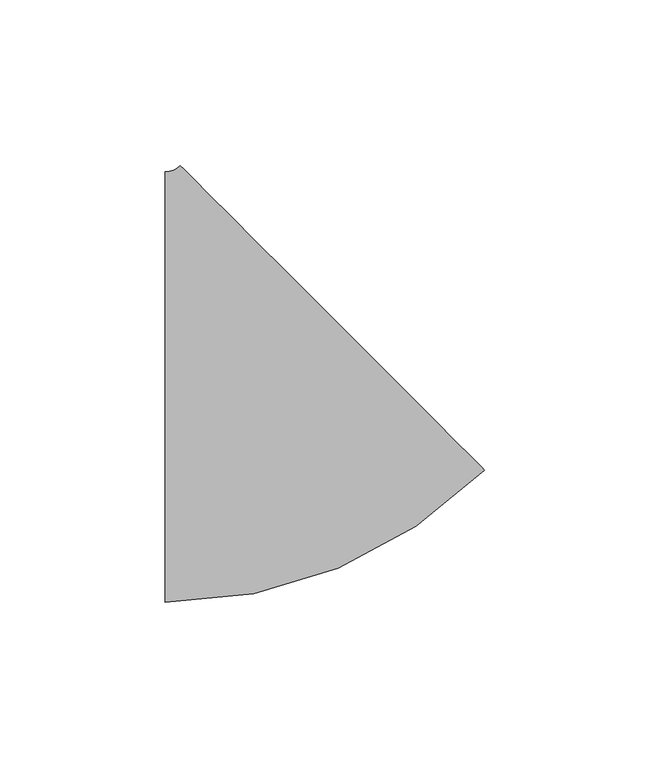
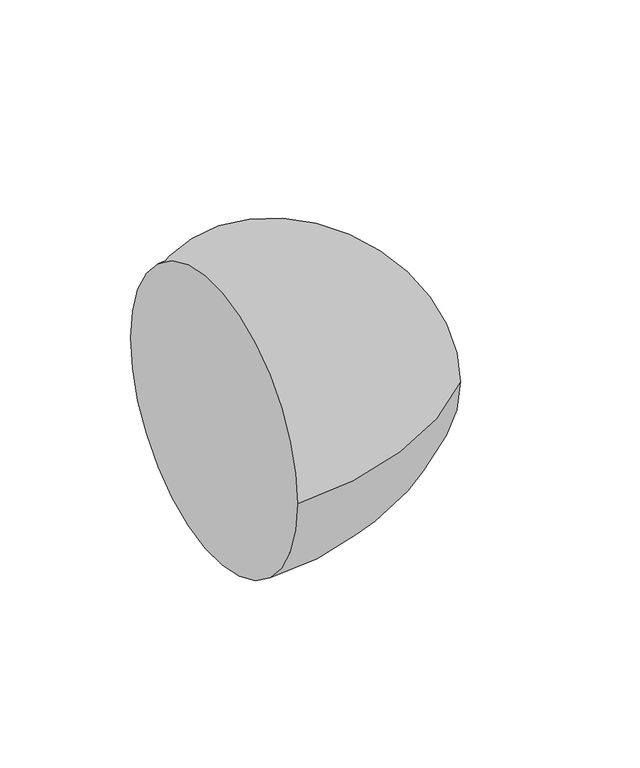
"""IFC4 building model written with IfcOpenShell, lengths in millimetres: pipe fitting geometry, M_Codo - Genérico : Estándar."""

import ifcopenshell
import ifcopenshell.guid

model = None  # the IFC model being written
_history = None  # IfcOwnerHistory: only IFC2X3 demands one
_inside = {}  # id of a spatial element -> (the spatial element, [elements in it])
_under = {}  # id of a project, library or spatial element -> (it, [spatial elements below it])
_declared = {}  # id of a project -> (the project, [libraries it declares])
_typed = {}  # id of a type object -> (the type object, [elements of that type])
_made_of = {}  # id of a material, layer set ... -> (it, [elements and type objects made of it])


def new_model(schema):
    """Start an empty IFC model of exactly this schema.

    Asked for "IFC4X3", IfcOpenShell would pick the latest addendum, in which some entities
    have other attributes; the version numbers below select the first issue.
    IFC2X3 requires an IfcOwnerHistory on every rooted entity: one is made here for all.
    """
    global model, _history
    if schema == "IFC4X3":
        model = ifcopenshell.file(schema_version=(4, 3, 0, 0))
    else:
        model = ifcopenshell.file(schema=schema)
    _inside.clear()
    _under.clear()
    _declared.clear()
    _typed.clear()
    _made_of.clear()
    _history = None
    if model.schema == "IFC2X3":
        org = make("IfcOrganization", Name="unknown")
        user = make(
            "IfcPersonAndOrganization",
            ThePerson=make("IfcPerson", FamilyName="unknown"),
            TheOrganization=org,
        )
        app = make(
            "IfcApplication",
            ApplicationDeveloper=org,
            Version="unknown",
            ApplicationFullName="unknown",
            ApplicationIdentifier="unknown",
        )
        _history = make(
            "IfcOwnerHistory",
            OwningUser=user,
            OwningApplication=app,
            ChangeAction="ADDED",
            CreationDate=0,
        )
    return model


def make(cls, **values):
    """One entity of the class cls with the attributes given. An attribute that is None is left unset."""
    return model.create_entity(
        cls, **{name: value for name, value in values.items() if value is not None}
    )


def rooted(cls, **values):
    """An entity with a GlobalId (a new one), such as an element, a storey or a relation."""
    return make(cls, GlobalId=ifcopenshell.guid.new(), OwnerHistory=_history, **values)


def si_unit(unit_type, name, prefix=None):
    """IfcSIUnit, for example si_unit("LENGTHUNIT", "METRE", prefix="MILLI")."""
    return make("IfcSIUnit", UnitType=unit_type, Prefix=prefix, Name=name)


def assignment(units):
    """IfcUnitAssignment: the units of a project."""
    return None if units is None else make("IfcUnitAssignment", Units=units)


def point(xyz):
    """IfcCartesianPoint."""
    return None if xyz is None else make("IfcCartesianPoint", Coordinates=xyz)


def direction(xyz):
    """IfcDirection."""
    return None if xyz is None else make("IfcDirection", DirectionRatios=xyz)


def frame(location, z_axis=None, x_axis=None):
    """IfcAxis2Placement3D, a coordinate frame: its origin and axes. An axis left out is left unset."""
    return make(
        "IfcAxis2Placement3D",
        Location=point(location),
        Axis=direction(z_axis),
        RefDirection=direction(x_axis),
    )


def origin():
    """The frame at (0, 0, 0) with its axes left unset."""
    return frame((0.0, 0.0, 0.0))


def place(relative_to, where):
    """IfcLocalPlacement: puts the frame where relative to a parent placement (None: the world)."""
    return make(
        "IfcLocalPlacement", PlacementRelTo=relative_to, RelativePlacement=where
    )


def context(
    kind, dimensions, precision=None, world=None, true_north=None, identifier=None
):
    """IfcGeometricRepresentationContext, for example the 3D "Model" context."""
    return make(
        "IfcGeometricRepresentationContext",
        ContextIdentifier=identifier,
        ContextType=kind,
        CoordinateSpaceDimension=dimensions,
        Precision=precision,
        WorldCoordinateSystem=world,
        TrueNorth=true_north,
    )


def project(units=None, contexts=None):
    """IfcProject with its units and contexts."""
    return rooted(
        "IfcProject",
        Name="project",
        RepresentationContexts=contexts,
        UnitsInContext=assignment(units),
    )


def spatial(cls, under=None, at=None, **own):
    """A site, building, storey or space (cls), placed at a placement, below another one or the project."""
    s = rooted(cls, ObjectPlacement=at, **own)
    if under is not None:
        _under.setdefault(under.id(), (under, []))[1].append(s)
    return s


def circle_curve(where, radius):
    """IfcCircle in the frame where."""
    return make("IfcCircle", Position=where, Radius=radius)


def ellipse_curve(where, semi_axis1, semi_axis2):
    """IfcEllipse in the frame where."""
    return make(
        "IfcEllipse", Position=where, SemiAxis1=semi_axis1, SemiAxis2=semi_axis2
    )


def trimmed(basis, trim1, trim2, sense, master):
    """IfcTrimmedCurve: the piece of a basis curve between two trims."""
    return make(
        "IfcTrimmedCurve",
        BasisCurve=basis,
        Trim1=trim1,
        Trim2=trim2,
        SenseAgreement=sense,
        MasterRepresentation=master,
    )


def shape(context_of_items, identifier, shape_type, items):
    """IfcShapeRepresentation: the items that make up one representation, for example the "Body"."""
    return make(
        "IfcShapeRepresentation",
        ContextOfItems=context_of_items,
        RepresentationIdentifier=identifier,
        RepresentationType=shape_type,
        Items=items,
    )


def source(mapping_origin, context_of_items, identifier, shape_type, items):
    """IfcRepresentationMap: a shape defined once, which mapped items show again and again."""
    return make(
        "IfcRepresentationMap",
        MappingOrigin=mapping_origin,
        MappedRepresentation=shape(context_of_items, identifier, shape_type, items),
    )


def transform(
    local_origin,
    x_axis=None,
    y_axis=None,
    z_axis=None,
    scale=None,
    scale2=None,
    scale3=None,
    uniform=True,
):
    """IfcCartesianTransformationOperator3D, or its non-uniform kind. x_axis, y_axis, z_axis: its Axis1, 2, 3."""
    if uniform:
        return make(
            "IfcCartesianTransformationOperator3D",
            Axis1=direction(x_axis),
            Axis2=direction(y_axis),
            LocalOrigin=point(local_origin),
            Scale=scale,
            Axis3=direction(z_axis),
        )
    return make(
        "IfcCartesianTransformationOperator3DnonUniform",
        Axis1=direction(x_axis),
        Axis2=direction(y_axis),
        LocalOrigin=point(local_origin),
        Scale=scale,
        Axis3=direction(z_axis),
        Scale2=scale2,
        Scale3=scale3,
    )


def mapped(mapping_source, mapping_target):
    """IfcMappedItem: shows the shape of a source again, moved by a transform."""
    return make(
        "IfcMappedItem", MappingSource=mapping_source, MappingTarget=mapping_target
    )


def made_of(thing, what):
    """Note that an element or type object is made of a material, layer set ...; save() writes the relation."""
    if what is not None:
        _made_of.setdefault(what.id(), (what, []))[1].append(thing)
    return thing


def element(
    cls,
    number,
    at=None,
    inside=None,
    cuts=None,
    type_object=None,
    material=None,
    context=None,
    identifier="Body",
    shape_type=None,
    held_by="IfcProductDefinitionShape",
    body=None,
    shapes=None,
    **own,
):
    """One element of the class cls, such as IfcWall. Its Tag is "e" and its number.

    at: its placement. inside: the storey or other place that contains it. cuts: it is an
    opening in that element (IfcRelVoidsElement). A single representation is given by context,
    identifier, shape_type and body (its items); several are given by shapes. held_by: the class
    of the entity that holds the representations. save() writes the other relations.
    """
    e = rooted(cls, Tag="e%d" % number, ObjectPlacement=at, **own)
    if body is not None:
        shapes = [shape(context, identifier, shape_type, body)]
    if shapes is not None:
        e.Representation = make(held_by, Representations=shapes)
    if inside is not None:
        _inside.setdefault(inside.id(), (inside, []))[1].append(e)
    if cuts is not None:
        rooted(
            "IfcRelVoidsElement", RelatingBuildingElement=cuts, RelatedOpeningElement=e
        )
    if type_object is not None:
        _typed.setdefault(type_object.id(), (type_object, []))[1].append(e)
    return made_of(e, material)


def aggregate(whole, parts):
    """IfcRelAggregates: a whole, such as a stair, and the parts it consists of."""
    return rooted("IfcRelAggregates", RelatingObject=whole, RelatedObjects=parts)


def save(model, path):
    """Write the relations noted so far, then the file.

    IfcRelAggregates (storeys below a building ...), IfcRelContainedInSpatialStructure (elements
    in a storey), IfcRelDefinesByType, IfcRelAssociatesMaterial and IfcRelDeclares: one each for
    every whole, place, type object, material and project.
    """
    for whole, parts in _under.values():
        aggregate(whole, parts)
    for where, things in _inside.values():
        rooted(
            "IfcRelContainedInSpatialStructure",
            RelatedElements=things,
            RelatingStructure=where,
        )
    for kind, things in _typed.values():
        rooted("IfcRelDefinesByType", RelatedObjects=things, RelatingType=kind)
    for what, things in _made_of.values():
        rooted("IfcRelAssociatesMaterial", RelatedObjects=things, RelatingMaterial=what)
    for by, libraries in _declared.values():
        rooted("IfcRelDeclares", RelatingContext=by, RelatedDefinitions=libraries)
    model.write(path)


def plane_surface(at):
    """IfcPlane: the flat surface through the origin of the frame at, square to its z axis."""
    return make("IfcPlane", Position=at)


def revolved_surface(curve, axis_point, axis_direction):
    """IfcSurfaceOfRevolution: the curve turned about the line through axis_point along axis_direction."""
    return make(
        "IfcSurfaceOfRevolution",
        SweptCurve=make("IfcArbitraryOpenProfileDef", ProfileType="CURVE", Curve=curve),
        AxisPosition=make("IfcAxis1Placement", Location=point(axis_point), Axis=direction(axis_direction)),
    )


def advanced_brep(points, edges, surfaces, faces):
    """IfcAdvancedBrep: a solid bounded by faces that lie on surfaces and meet in shared edges.

    An edge is (start, end): straight between two places in points (the first is 0);
    or (start, end, curve); or (start, end, curve, False) where it runs against its curve.
    A face is (place in surfaces, loops), or (place, loops, False) where it looks against
    its surface's normal. A loop lists edges by number (the first is 1), with a minus sign
    where the edge is run from its end to its start. The first loop is the outer one.
    """
    corners = [point(p) for p in points]
    vertices = [make("IfcVertexPoint", VertexGeometry=c) for c in corners]
    made = []
    for start, end, *more in edges:
        made.append(
            make(
                "IfcEdgeCurve",
                EdgeStart=vertices[start],
                EdgeEnd=vertices[end],
                EdgeGeometry=more[0] if more else make("IfcPolyline", Points=[corners[start], corners[end]]),
                SameSense=more[1] if len(more) > 1 else True,
            )
        )
    hull = []
    for where, loops, *sense in faces:
        bounds = []
        for j, loop in enumerate(loops):
            ring = [make("IfcOrientedEdge", EdgeElement=made[abs(k) - 1], Orientation=k > 0) for k in loop]
            bounds.append(
                make(
                    "IfcFaceOuterBound" if j == 0 else "IfcFaceBound",
                    Bound=make("IfcEdgeLoop", EdgeList=ring),
                    Orientation=True,
                )
            )
        hull.append(make("IfcAdvancedFace", Bounds=bounds, FaceSurface=surfaces[where], SameSense=sense[0] if sense else True))
    return make("IfcAdvancedBrep", Outer=make("IfcClosedShell", CfsFaces=hull))


def pipe_fitting_ed13619d(model_context):
    return source(origin(), model_context, "Body", "AdvancedBrep", [
        advanced_brep(
        [(-29.5886057, -65.0875, 0.0), (-29.5886057, 65.0875, 0.0), (66.9450512, -25.1043495, 0.0), (-25.0986682, 66.9471814, 0.0)],
        [
            (0, 1, circle_curve(frame((-29.5886057, 0.0, 0.0), z_axis=(-1.0, 0.0, 0.0), x_axis=(0.0, 1.0, 0.0)), 65.0875)),
            (1, 0, circle_curve(frame((-29.5886057, 0.0, 0.0), z_axis=(-1.0, 0.0, 0.0), x_axis=(0.0, 1.0, 0.0)), 65.0875)),
            (2, 3, circle_curve(frame((20.9231915, 20.921416, 0.0), z_axis=(0.7071367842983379, 0.7070767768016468, 0.0), x_axis=(-0.7070767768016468, 0.7071367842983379, 0.0)), 65.0875)),
            (3, 2, circle_curve(frame((20.9231915, 20.921416, 0.0), z_axis=(0.7071367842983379, 0.7070767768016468, 0.0), x_axis=(-0.7070767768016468, 0.7071367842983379, 0.0)), 65.0875)),
            (3, 1, circle_curve(frame((-29.5886057, 71.4375, 0.0), z_axis=(0.0, 0.0, -1.0), x_axis=(0.0, -1.0, 0.0)), 6.35)),
            (0, 2, circle_curve(frame((-29.5886057, 71.4375, 0.0), z_axis=(0.0, 0.0, 1.0), x_axis=(0.0, -1.0, 0.0)), 136.525)),
        ],
        [
            plane_surface(frame((-29.5886057, 0.0, 0.0), z_axis=(-1.0, 0.0, 0.0), x_axis=(0.0, 0.0, 1.0))),
            plane_surface(frame((20.9231915, 20.921416, 0.0), z_axis=(0.707136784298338, 0.7070767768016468, 0.0), x_axis=(0.0, 0.0, 1.0))),
            revolved_surface(trimmed(ellipse_curve(frame((-29.5886057, 0.0, 0.0), z_axis=(-1.0, 0.0, 0.0), x_axis=(0.0, 1.0, 0.0)), 65.0875, 65.0875), [point((-29.5886057, -65.0875, 0.0))], [point((-29.5886057, 65.0875, 0.0))], True, "CARTESIAN"), (-29.5886057, 71.4375, 0.0), (0.0, 0.0, 1.0)),
            revolved_surface(trimmed(ellipse_curve(frame((-29.5886057, 0.0, 0.0), z_axis=(-1.0, 0.0, 0.0), x_axis=(0.0, 1.0, 0.0)), 65.0875, 65.0875), [point((-29.5886057, 65.0875, 0.0))], [point((-29.5886057, -65.0875, 0.0))], True, "CARTESIAN"), (-29.5886057, 71.4375, 0.0), (0.0, 0.0, 1.0)),
        ],
        [
            (0, [[1, 2]]),
            (1, [[3, 4]]),
            (2, [[5, -1, 6, -4]]),
            (3, [[-6, -2, -5, -3]]),
        ],
    ),
    ])


if __name__ == "__main__":
    model = new_model("IFC4")
    model_context = context("Model", 3, world=origin())
    ifc_project = project(units=[si_unit("LENGTHUNIT", "METRE", prefix="MILLI")], contexts=[model_context])
    site = spatial("IfcSite", under=ifc_project)
    building = spatial("IfcBuilding", under=site)
    placement = place(None, origin())
    pipe_fitting_shape = pipe_fitting_ed13619d(model_context)
    element("IfcPipeFitting", 1, ObjectType="M_Codo - Genérico : Estándar", at=placement, inside=building, context=model_context, shape_type="MappedRepresentation", body=[
        mapped(pipe_fitting_shape, transform((0.0, 0.0, 0.0), x_axis=(1.0, 0.0, 0.0), y_axis=(0.0, 1.0, 0.0), z_axis=(0.0, 0.0, 1.0))),
    ])
    save(model, "model.ifc")
